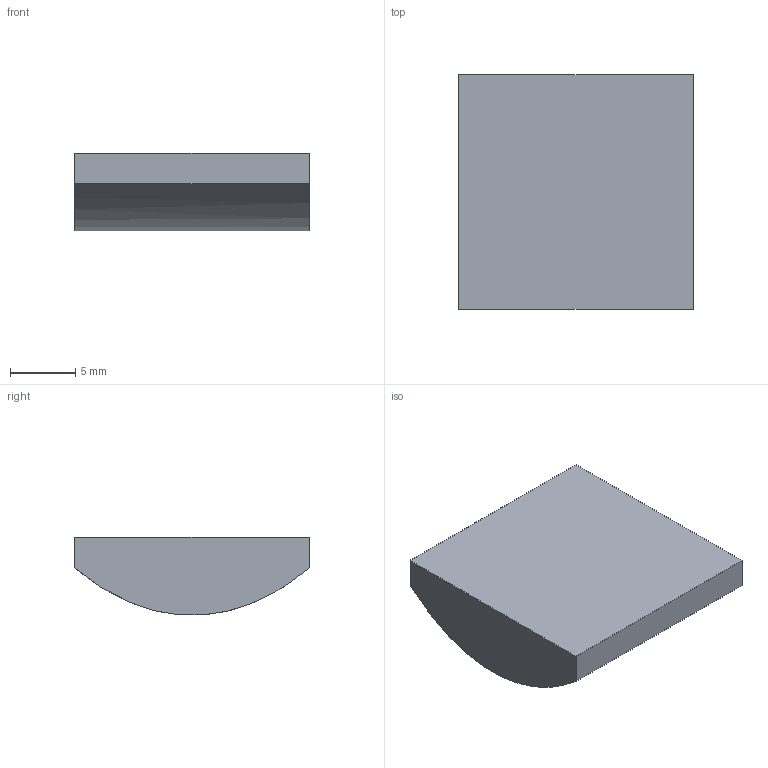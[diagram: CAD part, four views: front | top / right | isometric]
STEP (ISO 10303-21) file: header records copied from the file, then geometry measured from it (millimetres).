
FILE_DESCRIPTION ((), '1');
FILE_NAME ('\\fileserver\Daten\Applikationen\Optikdesign\SPA-Design\aktuelle SPA-Designs\Linsenkataloge - 2016-Juni\Zemax\CHL\CHL18-15.STP', '2016-05-24T14:27:14', ('Unknown'), ('Unknown'), 'HarmonyWare STEP v2.0.1', 'HarmonyWare Translators', '');
FILE_SCHEMA (('CONFIG_CONTROL_DESIGN'));
Length unit declared in the file: millimetre
Products named in the file (1): NONE
Bounding box: 18 x 18 x 5.97 mm (x, y, z)
Volume: 1556.9 mm3; surface area: 938.7 mm2
Topology: 1 solids, 1 shells, 6 faces, 12 edges, 8 vertices
Faces by surface type: plane 3, bspline 3
Entity records: 384 total; most frequent: CARTESIAN_POINT 201, ORIENTED_EDGE 24, B_SPLINE_CURVE_WITH_KNOTS 12, EDGE_CURVE 12, VERTEX_POINT 8, PERSON 8, ORGANIZATION 8, PERSON_AND_ORGANIZATION 8
